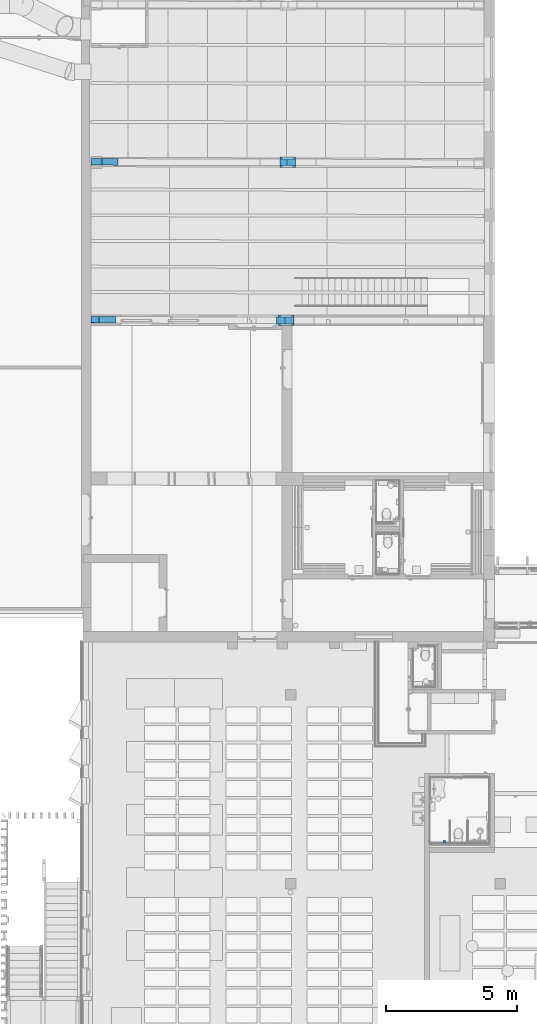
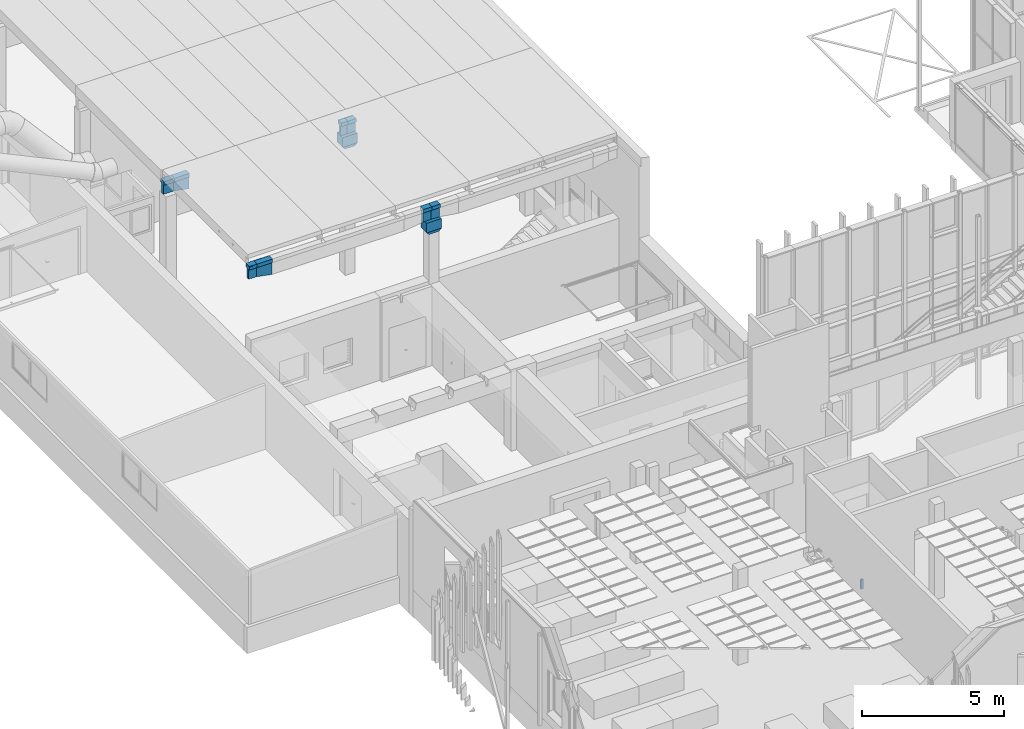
# One storey, part 215 of 301: 12 building element parts, 1 discrete accessory, 6 elements without a shape of their own.
"""IFC2X3 building model written with IfcOpenShell, lengths in millimetres."""

from ifc_helpers import new_model, entity, si_unit, converted_unit, derived_unit, money_unit, direction, frame, origin_with_axes, place, context, subcontext, project, spatial, faceted_brep, material, type_object, element, aggregate, save


model = new_model("IFC2X3")

# Units and contexts
model_context = context("Model", 3, precision=0.01, world=origin_with_axes(), true_north=direction((0.0, 1.0)))
body_context = subcontext(model_context, "Body", "Model", "MODEL_VIEW")
ifc_project = project(units=[si_unit("LENGTHUNIT", "METRE", prefix="MILLI"), si_unit("AREAUNIT", "SQUARE_METRE"), si_unit("VOLUMEUNIT", "CUBIC_METRE"), converted_unit("PLANEANGLEUNIT", "DEGREE", entity("IfcPlaneAngleMeasure", 0.0174532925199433), si_unit("PLANEANGLEUNIT", "RADIAN"), dimensions=[0, 0, 0, 0, 0, 0, 0]), money_unit("EUR"), converted_unit("TIMEUNIT", "Year", entity("IfcTimeMeasure", 31557600.0), si_unit("TIMEUNIT", "SECOND"), dimensions=[0, 0, 1, 0, 0, 0, 0]), si_unit("MASSUNIT", "GRAM", prefix="KILO"), si_unit("THERMODYNAMICTEMPERATUREUNIT", "DEGREE_CELSIUS"), si_unit("LUMINOUSINTENSITYUNIT", "LUMEN"), si_unit("ENERGYUNIT", "JOULE", prefix="MEGA"), derived_unit("THERMALCONDUCTANCEUNIT", [(si_unit("POWERUNIT", "WATT"), 1), (si_unit("LENGTHUNIT", "METRE"), -1), (si_unit("THERMODYNAMICTEMPERATUREUNIT", "KELVIN"), -1)]), derived_unit("SPECIFICHEATCAPACITYUNIT", [(si_unit("ENERGYUNIT", "JOULE"), 1), (si_unit("MASSUNIT", "GRAM", prefix="KILO"), -1), (si_unit("THERMODYNAMICTEMPERATUREUNIT", "KELVIN"), -1)]), derived_unit("MASSDENSITYUNIT", [(si_unit("MASSUNIT", "GRAM", prefix="KILO"), 1), (si_unit("VOLUMEUNIT", "CUBIC_METRE"), -1)])], contexts=[model_context])

# Site, building, storey
site_placement = place(None, frame((0.0, 0.0, 8650.0), z_axis=(0.0, 0.0, 1.0), x_axis=(1.0, 0.0, 0.0)))
site = spatial("IfcSite", under=ifc_project, at=site_placement, Name="43301:001:0844", CompositionType="ELEMENT")
building_placement = place(site_placement, origin_with_axes())
building = spatial("IfcBuilding", under=site, at=building_placement, Name="Kuressaare Ametikooli tuulikute mehaanikute õppekorpus", CompositionType="ELEMENT")
storey_placement = place(building_placement, origin_with_axes())
storey = spatial("IfcBuildingStorey", under=building, at=storey_placement, Name="1.korrus", CompositionType="ELEMENT", Elevation=0.0)

# Discrete accessory
ifc_material_1 = material(Name="GENEERILINE - KONSTRUKTRIOON")
discrete_accessory_type = type_object("IfcDiscreteAccessoryType", Name="GENEERILINE - KONSTRUKTRIOON 400")
discrete_accessory_placement = place(storey_placement, frame((101691.0489263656, 18124.79393465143, 99.99999999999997), z_axis=(0.0, 0.0, 1.0), x_axis=(1.0, 0.0, 0.0)))
element("IfcDiscreteAccessory", 1, at=discrete_accessory_placement, inside=storey, type_object=discrete_accessory_type, material=ifc_material_1, Name="WCH", context=body_context, shape_type="Brep", body=[
    faceted_brep([(0.0, 0.0, 400.0), (0.0, 0.0, 0.0), (88.99999999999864, 0.0, 0.0), (88.99999999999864, 0.0, 400.0), (0.0, 80.99999999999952, 400.0), (0.0, 80.99999999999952, 0.0), (88.99999999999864, 80.99999999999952, 0.0), (88.99999999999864, 80.99999999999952, 400.0)], [[[0, 1, 2, 3]], [[4, 5, 1, 0]], [[2, 1, 5, 6]], [[3, 2, 6, 7]], [[4, 0, 3, 7]], [[7, 6, 5, 4]]]),
])

# Column, building element parts
column_type = type_object("IfcColumnType", Name="Various Structures - 3 Segments - 600 x 400 x 5950 (5433+102+415)", PredefinedType="NOTDEFINED")
column_1_placement = place(storey_placement, frame((95767.28142057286, 44068.92395887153, 130.0), z_axis=(0.0, 0.0, 1.0), x_axis=(1.0, 0.0, 0.0)))
column_1 = element("IfcColumn", 2, at=column_1_placement, inside=storey, type_object=column_type)
building_element_part_1_placement = place(column_1_placement, origin_with_axes())
building_element_part_1 = element("IfcBuildingElementPart", 3, at=building_element_part_1_placement, material=ifc_material_1, Name="GENEERILINE - KONSTRUKTRIOON", context=body_context, shape_type="Brep", body=[
    faceted_brep([(299.9999999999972, -200.0000000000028, 5535.0), (-299.9999999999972, -200.0000000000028, 5535.0), (-200.0000000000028, -200.0000000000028, 5432.979557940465), (200.0000000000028, -200.0000000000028, 5432.979557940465), (299.9999999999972, 200.0000000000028, 5535.0), (-299.9999999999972, 200.0000000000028, 5535.0), (-200.0000000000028, 200.0000000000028, 5432.979557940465), (200.0000000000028, 200.0000000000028, 5432.979557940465)], [[[0, 1, 2, 3]], [[4, 5, 1, 0]], [[1, 5, 6, 2]], [[7, 3, 2, 6]], [[4, 0, 3, 7]], [[5, 4, 7, 6]]]),
])
building_element_part_2_placement = place(column_1_placement, origin_with_axes())
building_element_part_2 = element("IfcBuildingElementPart", 4, at=building_element_part_2_placement, material=ifc_material_1, Name="GENEERILINE - KONSTRUKTRIOON", context=body_context, shape_type="Brep", body=[
    faceted_brep([(-299.9999999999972, -200.0000000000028, 5950.0), (-299.9999999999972, -200.0000000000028, 5535.0), (299.9999999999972, -200.0000000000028, 5535.0), (299.9999999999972, -200.0000000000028, 5950.0), (-299.9999999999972, 200.0000000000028, 5950.0), (-299.9999999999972, 200.0000000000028, 5535.0), (299.9999999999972, 200.0000000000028, 5535.0), (299.9999999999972, 200.0000000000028, 5950.0)], [[[0, 1, 2, 3]], [[4, 5, 1, 0]], [[2, 1, 5, 6]], [[3, 2, 6, 7]], [[4, 0, 3, 7]], [[7, 6, 5, 4]]]),
])
aggregate(column_1, [building_element_part_1, building_element_part_2])

# Beam, building element part
beam_type_1 = type_object("IfcBeamType", Name="Various Structures - 5 Segments - 250 x 700 x 7499 (338+766+5404+631+361)", PredefinedType="NOTDEFINED")
beam_1_placement = place(storey_placement, frame((95728.83666082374, 44073.08587643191, 6660.0), z_axis=(0.0, 0.0, 1.0), x_axis=(-0.005544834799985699, -0.9999846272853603, 0.0)))
beam_1 = element("IfcBeam", 5, at=beam_1_placement, inside=storey, type_object=beam_type_1)
ifc_material_2 = material(Name="Raudbetoon")
building_element_part_3_placement = place(beam_1_placement, origin_with_axes())
building_element_part_3 = element("IfcBuildingElementPart", 6, at=building_element_part_3_placement, material=ifc_material_2, Name="Raudbetoon", context=body_context, shape_type="Brep", body=[
    faceted_brep([(-125.0055545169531, 0.0, 0.0), (-97.53185385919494, 0.0, 0.0), (-98.25972635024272, 337.7568168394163, 0.0), (-125.0055545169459, 337.7568168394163, 0.0), (121.6271866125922, 0.0, -4.176709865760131), (-97.53184121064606, 0.0, -4.176709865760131), (-125.0052826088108, 0.0, -150.0000000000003), (-64.99999999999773, 0.0, -164.4012678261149), (-64.99999999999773, 0.0, -579.8231697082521), (64.99999999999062, 0.0, -579.8231697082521), (64.99999999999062, 0.0, -164.4012678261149), (125.0052826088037, 0.0, -150.0000000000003), (125.0055545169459, 0.0, 0.0), (121.6271992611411, 0.0, 0.0), (-98.25971370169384, 337.7568168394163, -4.176709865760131), (120.8993141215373, 337.7568168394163, -4.176709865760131), (120.8993267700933, 337.7568168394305, 0.0), (125.0055545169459, 337.7568168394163, 0.0), (125.0052826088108, 337.7568168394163, -150.0000000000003), (64.99999999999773, 337.7568168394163, -164.4012678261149), (64.99999999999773, 337.7568168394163, -579.8231697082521), (-65.00000000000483, 337.7568168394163, -579.8231697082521), (-65.00000000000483, 337.7568168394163, -164.4012678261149), (-125.0052826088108, 337.7568168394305, -150.0000000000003)], [[[0, 1, 2, 3]], [[4, 5, 1, 0, 6, 7, 8, 9, 10, 11, 12, 13]], [[5, 14, 2, 1]], [[14, 15, 16, 17, 18, 19, 20, 21, 22, 23, 3, 2]], [[6, 0, 3, 23]], [[4, 15, 14, 5]], [[7, 6, 23, 22]], [[8, 7, 22, 21]], [[9, 8, 21, 20]], [[10, 9, 20, 19]], [[11, 10, 19, 18]], [[12, 11, 18, 17]], [[17, 16, 13, 12]], [[4, 13, 16, 15]]]),
])
aggregate(beam_1, [building_element_part_3])

beam_type_2 = type_object("IfcBeamType", Name="Various Structures - 5 Segments - 250 x 700 x 7470 (262+767+5400+621+420)", PredefinedType="NOTDEFINED")
beam_2_placement = place(storey_placement, frame((95728.83666082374, 44073.08587643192, 6660.0), z_axis=(0.0, 0.0, 1.0), x_axis=(0.001777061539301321, 0.9999984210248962, 0.0)))
beam_2 = element("IfcBeam", 7, at=beam_2_placement, inside=storey, type_object=beam_type_2)
building_element_part_4_placement = place(beam_2_placement, origin_with_axes())
building_element_part_4 = element("IfcBuildingElementPart", 8, at=building_element_part_4_placement, material=ifc_material_2, Name="Raudbetoon", context=body_context, shape_type="Brep", body=[
    faceted_brep([(125.0055545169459, 261.7777961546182, 0.0), (97.9539458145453, 261.7777961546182, 0.0), (97.53175422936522, 0.0, 0.0), (125.0055545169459, 0.0, 0.0), (-121.2048707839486, 261.7777961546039, -4.176709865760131), (97.95393316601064, 261.7777961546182, -4.176709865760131), (125.0052826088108, 261.7777961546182, -150.0000000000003), (64.99999999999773, 261.7777961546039, -164.4012678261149), (64.99999999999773, 261.7777961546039, -579.8231697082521), (-65.00000000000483, 261.7777961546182, -579.8231697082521), (-65.00000000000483, 261.7777961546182, -164.4012678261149), (-125.0052826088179, 261.7777961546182, -150.0000000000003), (-125.0055545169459, 261.7777961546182, 0.0), (-121.2048834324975, 261.7777961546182, 0.0), (97.53174158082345, 0.0, -4.176709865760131), (-121.6270623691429, 0.0, -4.176709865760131), (-121.6270750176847, 0.0, 0.0), (-125.0055545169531, 0.0, 0.0), (-125.0052826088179, 0.0, -150.0000000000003), (-65.00000000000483, 0.0, -164.4012678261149), (-65.00000000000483, 0.0, -579.8231697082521), (64.99999999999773, 0.0, -579.8231697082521), (64.99999999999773, 0.0, -164.4012678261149), (125.0052826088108, 0.0, -150.0000000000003)], [[[0, 1, 2, 3]], [[4, 5, 1, 0, 6, 7, 8, 9, 10, 11, 12, 13]], [[5, 14, 2, 1]], [[14, 15, 16, 17, 18, 19, 20, 21, 22, 23, 3, 2]], [[3, 23, 6, 0]], [[4, 15, 14, 5]], [[23, 22, 7, 6]], [[22, 21, 8, 7]], [[21, 20, 9, 8]], [[20, 19, 10, 9]], [[19, 18, 11, 10]], [[18, 17, 12, 11]], [[17, 16, 13, 12]], [[4, 13, 16, 15]]]),
])

beam_type_3 = type_object("IfcBeamType", Name="Various Structures - 5 Segments - 250 x 700 x 7563 (338+766+5468+631+361)", PredefinedType="NOTDEFINED")
beam_3_placement = place(storey_placement, frame((95664.04856966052, 38039.92828517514, 6660.0), z_axis=(0.0, 0.0, 1.0), x_axis=(0.0, -1.0, 0.0)))
beam_3 = element("IfcBeam", 9, at=beam_3_placement, inside=storey, type_object=beam_type_3)
building_element_part_5_placement = place(beam_3_placement, origin_with_axes())
building_element_part_5 = element("IfcBuildingElementPart", 10, at=building_element_part_5_placement, material=ifc_material_2, Name="Raudbetoon", context=body_context, shape_type="Brep", body=[
    faceted_brep([(-125.0052826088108, 337.7568168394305, -150.0000000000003), (-125.0052826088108, 0.0, -150.0000000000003), (-125.0055452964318, 0.0, -5.086558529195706), (-125.0055452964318, 337.7568168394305, -5.086558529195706), (-64.99999999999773, 337.7568168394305, -164.4012678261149), (-64.99999999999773, 0.0, -164.4012678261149), (125.0055545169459, 0.0, 0.0), (93.0820248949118, 0.0, 0.0), (93.0820094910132, 0.0, -5.086558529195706), (-64.99999999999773, 0.0, -579.8231697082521), (64.99999999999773, 0.0, -579.8231697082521), (64.99999999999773, 0.0, -164.4012678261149), (125.0052826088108, 0.0, -150.0000000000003), (93.81872840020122, 337.7568168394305, -5.086558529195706), (93.81874380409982, 337.7568168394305, 0.0), (125.0055545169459, 337.7568168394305, 0.0), (125.0052826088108, 337.7568168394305, -150.0000000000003), (64.99999999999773, 337.7568168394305, -164.4012678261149), (64.99999999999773, 337.7568168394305, -579.8231697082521), (-64.99999999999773, 337.7568168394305, -579.8231697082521)], [[[0, 1, 2, 3]], [[4, 5, 1, 0]], [[6, 7, 8, 2, 1, 5, 9, 10, 11, 12]], [[2, 8, 13, 3]], [[0, 3, 13, 14, 15, 16, 17, 18, 19, 4]], [[19, 9, 5, 4]], [[6, 15, 14, 7]], [[13, 8, 7, 14]], [[18, 10, 9, 19]], [[17, 11, 10, 18]], [[16, 12, 11, 17]], [[15, 6, 12, 16]]]),
])
aggregate(beam_3, [building_element_part_5])

# Building element part
building_element_part_6_placement = place(beam_2_placement, origin_with_axes())
building_element_part_6 = element("IfcBuildingElementPart", 11, at=building_element_part_6_placement, material=ifc_material_2, Name="Raudbetoon", context=body_context, shape_type="Brep", body=[
    faceted_brep([(64.99999999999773, 7050.206855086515, -580.0205929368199), (64.99999999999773, 7050.206855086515, -580.0000000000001), (64.99999999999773, 7050.313488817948, -580.0000000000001), (64.99999999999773, 7050.313488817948, -164.4012678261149), (64.99999999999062, 6428.927864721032, -164.4011476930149), (64.99999999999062, 6428.927864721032, -700.0000000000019), (-65.00000000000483, 7049.975836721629, -580.0000000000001), (-65.00000000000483, 7049.975836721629, -580.0652064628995), (-65.00000000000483, 7050.313488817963, -580.0000000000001), (-65.00000000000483, 7050.313488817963, -164.4012678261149), (-125.0052826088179, 7050.313488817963, -150.0000000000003), (-125.0054185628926, 7050.313488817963, -75.00000000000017), (-125.0055545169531, 7050.313488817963, 0.0), (-110.2564275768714, 7050.313488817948, 0.0), (-110.2564149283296, 7050.313488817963, -4.176709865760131), (108.9023890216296, 7050.313488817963, -4.176709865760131), (108.9024016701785, 7050.313488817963, 0.0), (125.0055545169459, 7050.313488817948, 0.0), (125.0054185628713, 7050.313488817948, -75.00000000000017), (125.0052826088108, 7050.313488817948, -150.0000000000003), (125.0051574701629, 6894.967082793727, -150.0000000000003), (125.0049071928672, 6584.274270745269, -150.0000000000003), (125.0047820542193, 6428.927864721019, -150.0000000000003), (107.9002395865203, 6428.927864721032, 0.0), (107.9002269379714, 6428.927864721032, -4.176709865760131), (-111.2585770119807, 6428.927864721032, -4.176709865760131), (-111.2585896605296, 6428.927864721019, 0.0), (-125.0050883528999, 6428.927864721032, 0.0), (-125.0049352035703, 6428.927864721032, -75.00000000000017), (-125.0047820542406, 6428.927864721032, -150.0000000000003), (-65.00000000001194, 6428.927864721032, -164.4011476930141), (-65.00000000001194, 6428.927864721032, -700.0000000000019), (125.0049352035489, 6428.927864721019, -75.00000000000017), (125.0050883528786, 6428.927864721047, 0.0), (-125.00515747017, 6894.967082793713, -150.0000000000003), (-125.0049071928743, 6584.274270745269, -150.0000000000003), (-125.0054379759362, 6894.967082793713, 0.0), (-125.0052048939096, 6584.274270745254, 0.0), (125.005437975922, 6894.967082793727, 0.0), (125.0052048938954, 6584.274270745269, 0.0), (125.0051768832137, 6739.62067676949, -75.00000000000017), (-125.0051768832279, 6739.62067676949, -75.00000000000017)], [[[0, 1, 2, 3, 4, 5]], [[6, 1, 0, 7]], [[8, 2, 1, 6]], [[3, 2, 8, 9, 10, 11, 12, 13, 14, 15, 16, 17, 18, 19]], [[4, 3, 19, 20, 21, 22]], [[23, 24, 25, 26, 27, 28, 29, 30, 31, 5, 4, 22, 32, 33]], [[31, 7, 0, 5]], [[8, 6, 7, 31, 30, 9]], [[34, 10, 9, 30, 29, 35]], [[34, 11, 10]], [[36, 12, 11]], [[37, 27, 26, 13, 12, 36]], [[25, 14, 13, 26]], [[15, 14, 25, 24]], [[16, 15, 24, 23]], [[38, 17, 16, 23, 33, 39]], [[38, 18, 17]], [[20, 19, 18]], [[21, 20, 40]], [[22, 21, 32]], [[27, 37, 28]], [[29, 28, 35]], [[33, 32, 39]], [[35, 41, 34]], [[36, 11, 34, 41]], [[37, 36, 41]], [[39, 40, 38]], [[20, 18, 38, 40]], [[21, 40, 39, 32]], [[37, 41, 35, 28]]]),
])

building_element_part_7_placement = place(beam_2_placement, origin_with_axes())
building_element_part_7 = element("IfcBuildingElementPart", 12, at=building_element_part_7_placement, material=ifc_material_2, Name="Raudbetoon", context=body_context, shape_type="Brep", body=[
    faceted_brep([(64.99999999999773, 7470.092009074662, -580.0000000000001), (-8.100187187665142e-09, 7470.092009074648, -580.0000000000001), (-8.121503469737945e-09, 7470.092009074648, 0.0), (125.0055545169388, 7470.092009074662, 0.0), (125.0052826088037, 7470.092009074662, -150.0000000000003), (64.99999999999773, 7470.092009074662, -164.4012678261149), (-65.00000000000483, 7050.313488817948, -580.0000000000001), (-65.00000000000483, 7469.976499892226, -580.0000000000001), (64.99999999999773, 7050.313488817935, -580.0000000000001), (-125.0052826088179, 7469.869866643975, -150.0000000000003), (-125.0055545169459, 7469.869866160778, 0.0), (-65.00000000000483, 7469.976499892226, -164.4012678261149), (-125.0055545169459, 7050.313488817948, 0.0), (125.0055545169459, 7050.313488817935, 0.0), (125.0052826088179, 7050.313488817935, -150.0000000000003), (64.99999999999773, 7050.313488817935, -164.4012678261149), (-65.00000000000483, 7050.313488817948, -164.4012678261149), (-125.0052826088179, 7050.313488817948, -150.0000000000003)], [[[0, 1, 2, 3, 4, 5]], [[6, 7, 1, 0, 8]], [[9, 10, 2, 1, 7, 11]], [[3, 2, 10, 12, 13]], [[13, 14, 4, 3]], [[14, 15, 5, 4]], [[15, 8, 0, 5]], [[16, 11, 7, 6]], [[16, 6, 8, 15, 14, 13, 12, 17]], [[12, 10, 9, 17]], [[17, 9, 11, 16]]]),
])

aggregate(beam_2, [building_element_part_4, building_element_part_6, building_element_part_7])

# Column, building element parts
column_2_placement = place(storey_placement, frame((95702.04856966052, 38045.77166488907, 130.0), z_axis=(0.0, 0.0, 1.0), x_axis=(1.0, 0.0, 0.0)))
column_2 = element("IfcColumn", 13, at=column_2_placement, inside=storey, type_object=column_type)
building_element_part_8_placement = place(column_2_placement, origin_with_axes())
building_element_part_8 = element("IfcBuildingElementPart", 14, at=building_element_part_8_placement, material=ifc_material_1, Name="GENEERILINE - KONSTRUKTRIOON", context=body_context, shape_type="Brep", body=[
    faceted_brep([(299.9999999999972, -200.0000000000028, 5535.0), (-299.9999999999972, -200.0000000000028, 5535.0), (-200.0000000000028, -200.0000000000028, 5432.979557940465), (200.0000000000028, -200.0000000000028, 5432.979557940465), (299.9999999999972, 200.0000000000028, 5535.0), (-299.9999999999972, 200.0000000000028, 5535.0), (-200.0000000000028, 200.0000000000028, 5432.979557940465), (200.0000000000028, 200.0000000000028, 5432.979557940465)], [[[0, 1, 2, 3]], [[4, 5, 1, 0]], [[1, 5, 6, 2]], [[7, 3, 2, 6]], [[4, 0, 3, 7]], [[5, 4, 7, 6]]]),
])
building_element_part_9_placement = place(column_2_placement, origin_with_axes())
building_element_part_9 = element("IfcBuildingElementPart", 15, at=building_element_part_9_placement, material=ifc_material_1, Name="GENEERILINE - KONSTRUKTRIOON", context=body_context, shape_type="Brep", body=[
    faceted_brep([(-299.9999999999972, -200.0000000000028, 5950.0), (-299.9999999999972, -200.0000000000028, 5535.0), (299.9999999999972, -200.0000000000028, 5535.0), (299.9999999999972, -200.0000000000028, 5950.0), (-299.9999999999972, 200.0000000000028, 5950.0), (-299.9999999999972, 200.0000000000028, 5535.0), (299.9999999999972, 200.0000000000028, 5535.0), (299.9999999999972, 200.0000000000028, 5950.0)], [[[0, 1, 2, 3]], [[4, 5, 1, 0]], [[2, 1, 5, 6]], [[3, 2, 6, 7]], [[4, 0, 3, 7]], [[7, 6, 5, 4]]]),
])
aggregate(column_2, [building_element_part_8, building_element_part_9])

# Beam, building element parts
beam_type_4 = type_object("IfcBeamType", Name="Various Structures - 5 Segments - 250 x 700 x 7406 (338+766+5361+631+310)", PredefinedType="NOTDEFINED")
beam_4_placement = place(storey_placement, frame((95664.04856966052, 38039.92828517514, 6660.0), z_axis=(0.0, 0.0, 1.0), x_axis=(0.00439378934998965, 0.9999903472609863, 0.0)))
beam_4 = element("IfcBeam", 16, at=beam_4_placement, inside=storey, type_object=beam_type_4)
building_element_part_10_placement = place(beam_4_placement, origin_with_axes())
building_element_part_10 = element("IfcBuildingElementPart", 17, at=building_element_part_10_placement, material=ifc_material_2, Name="Raudbetoon", context=body_context, shape_type="Brep", body=[
    faceted_brep([(125.0052826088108, 0.0, -150.0000000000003), (125.0052826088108, 337.7568168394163, -150.0000000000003), (125.0055452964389, 337.7568168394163, -5.086558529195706), (125.0055452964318, 0.0, -5.086558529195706), (64.99999999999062, 0.0, -164.4012678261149), (64.99999999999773, 337.7568168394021, -164.4012678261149), (-125.0055545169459, 337.7568168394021, 0.0), (-93.82935187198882, 337.7568168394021, 0.0), (-93.82933646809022, 337.7568168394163, -5.086558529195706), (64.99999999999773, 337.7568168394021, -579.8231697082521), (-65.00000000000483, 337.7568168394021, -579.8231697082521), (-65.00000000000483, 337.7568168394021, -164.4012678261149), (-125.0052826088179, 337.7568168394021, -150.0000000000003), (-93.08201590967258, 0.0, -5.086558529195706), (-93.08203131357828, 0.0, 0.0), (-125.0055545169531, 0.0, 0.0), (-125.0052826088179, 0.0, -150.0000000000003), (-65.00000000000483, 0.0, -164.4012678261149), (-65.00000000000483, 0.0, -579.8231697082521), (64.99999999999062, 0.0, -579.8231697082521)], [[[0, 1, 2, 3]], [[1, 0, 4, 5]], [[6, 7, 8, 2, 1, 5, 9, 10, 11, 12]], [[2, 8, 13, 3]], [[0, 3, 13, 14, 15, 16, 17, 18, 19, 4]], [[5, 4, 19, 9]], [[6, 15, 14, 7]], [[13, 8, 7, 14]], [[9, 19, 18, 10]], [[10, 18, 17, 11]], [[11, 17, 16, 12]], [[12, 16, 15, 6]]]),
])
building_element_part_11_placement = place(beam_4_placement, origin_with_axes())
building_element_part_11 = element("IfcBuildingElementPart", 18, at=building_element_part_11_placement, material=ifc_material_2, Name="Raudbetoon", context=body_context, shape_type="Brep", body=[
    faceted_brep([(-65.00000000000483, 7095.467175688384, -164.4012678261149), (-65.00000000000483, 7095.467175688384, -580.0000001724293), (-64.99999999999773, 7094.895977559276, -580.0000001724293), (-65.00000000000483, 6464.780952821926, -700.0000000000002), (-65.00000000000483, 6464.780952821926, -164.4011476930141), (64.99999999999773, 7095.467175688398, -164.4012678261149), (64.99999999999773, 7095.467175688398, -580.0000001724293), (-125.0052826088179, 7095.467175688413, -150.0000000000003), (-125.0054185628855, 7095.467175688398, -75.00000000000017), (-125.0055545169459, 7095.467175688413, 0.0), (-108.7814583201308, 7095.467175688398, 0.0), (-108.7814429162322, 7095.467175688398, -5.086558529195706), (110.3776124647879, 7095.467175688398, -5.086558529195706), (110.3776278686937, 7095.467175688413, 0.0), (125.0055545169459, 7095.467175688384, 0.0), (125.0054185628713, 7095.467175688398, -75.00000000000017), (125.0052826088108, 7095.467175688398, -150.0000000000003), (125.0050883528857, 6464.78095282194, 0.0), (111.7730838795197, 6464.780952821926, 0.0), (111.773068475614, 6464.780952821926, -5.086558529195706), (-107.3859869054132, 6464.78095282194, -5.086558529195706), (-107.3860023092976, 6464.780952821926, 0.0), (-125.0050883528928, 6464.780952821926, 0.0), (-125.0049352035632, 6464.780952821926, -75.00000000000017), (-125.0047820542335, 6464.780952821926, -150.0000000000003), (64.99999999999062, 6464.780952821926, -700.0000000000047), (64.99999999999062, 6464.780952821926, -164.4011476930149), (125.0047820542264, 6464.780952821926, -150.0000000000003), (125.004935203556, 6464.780952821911, -75.00000000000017), (-125.0049071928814, 6622.452508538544, -150.0000000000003), (-125.00515747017, 6937.79561997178, -150.0000000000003), (-125.0054379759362, 6937.79561997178, 0.0), (-125.0052048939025, 6622.452508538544, 0.0), (125.0052048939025, 6622.452508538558, 0.0), (125.0054379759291, 6937.79561997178, 0.0), (125.0051574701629, 6937.79561997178, -150.0000000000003), (125.0049071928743, 6622.452508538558, -150.0000000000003), (-125.0051768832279, 6780.124064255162, -75.00000000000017), (125.0051768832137, 6780.124064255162, -75.00000000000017)], [[[0, 1, 2, 3, 4]], [[5, 6, 1, 0, 7, 8, 9, 10, 11, 12, 13, 14, 15, 16]], [[2, 1, 6]], [[2, 6, 3]], [[17, 18, 19, 20, 21, 22, 23, 24, 4, 3, 25, 26, 27, 28]], [[29, 30, 7, 0, 4, 24]], [[26, 25, 6, 5]], [[7, 30, 8]], [[8, 31, 9]], [[31, 32, 22, 21, 10, 9]], [[21, 20, 11, 10]], [[19, 12, 11, 20]], [[18, 13, 12, 19]], [[33, 34, 14, 13, 18, 17]], [[14, 34, 15]], [[15, 35, 16]], [[27, 26, 5, 16, 35, 36]], [[25, 3, 6]], [[23, 22, 32]], [[29, 24, 23]], [[28, 27, 36]], [[33, 17, 28]], [[30, 29, 37]], [[37, 31, 8, 30]], [[37, 32, 31]], [[34, 33, 38]], [[38, 35, 15, 34]], [[38, 36, 35]], [[23, 32, 37, 29]], [[28, 36, 38, 33]]]),
])
building_element_part_12_placement = place(beam_4_placement, origin_with_axes())
building_element_part_12 = element("IfcBuildingElementPart", 19, at=building_element_part_12_placement, material=ifc_material_2, Name="Raudbetoon", context=body_context, shape_type="Brep", body=[
    faceted_brep([(125.0052826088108, 7095.467175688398, -150.0000000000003), (125.0052826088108, 7405.912857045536, -150.0000000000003), (125.0055545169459, 7405.912858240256, 0.0), (125.0055545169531, 7095.467175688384, 0.0), (64.99999999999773, 7095.467175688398, -164.4012678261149), (64.99999999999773, 7405.649203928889, -164.4012678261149), (-109.4660553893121, 7404.882629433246, -5.086558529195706), (-109.4660707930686, 7404.882629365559, 0.0), (64.99999999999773, 7405.649203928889, -580.0000000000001), (-64.99999999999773, 7405.078005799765, -580.0000000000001), (-64.99999999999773, 7405.078005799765, -164.4012678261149), (-125.0052826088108, 7404.814352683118, -150.0000000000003), (-125.0055091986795, 7404.81435168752, -25.00013400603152), (-15.69463763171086, 7405.294645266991, -25.00013400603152), (-15.69463763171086, 7405.294645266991, -5.086558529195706), (-109.1519302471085, 7262.904585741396, 0.0), (-125.0055545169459, 7262.740619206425, 0.0), (-125.0055545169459, 7095.467175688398, 0.0), (-125.0052826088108, 7095.467175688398, -150.0000000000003), (-64.99999999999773, 7095.467175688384, -164.4012678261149), (-64.99999999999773, 7095.467175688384, -580.0000000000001), (64.99999999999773, 7095.467175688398, -580.0000000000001), (-109.1536856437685, 7263.704911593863, -5.086558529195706), (-125.0055091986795, 7266.67426308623, -25.00013400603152), (-14.27279744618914, 7267.819519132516, -25.00013400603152), (-14.24039467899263, 7264.686554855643, -5.086558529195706)], [[[0, 1, 2, 3]], [[4, 5, 1, 0]], [[6, 7, 2, 1, 5, 8, 9, 10, 11, 12, 13, 14]], [[3, 2, 7, 15, 16, 17]], [[18, 19, 20, 21, 4, 0, 3, 17]], [[21, 8, 5, 4]], [[15, 7, 6, 22]], [[20, 9, 8, 21]], [[19, 10, 9, 20]], [[18, 11, 10, 19]], [[23, 12, 11, 18, 17, 16]], [[24, 13, 12, 23]], [[25, 14, 13, 24]], [[22, 6, 14, 25]], [[25, 24, 23, 16, 15, 22]]]),
])
aggregate(beam_4, [building_element_part_10, building_element_part_11, building_element_part_12])

save(model, "model.ifc")
